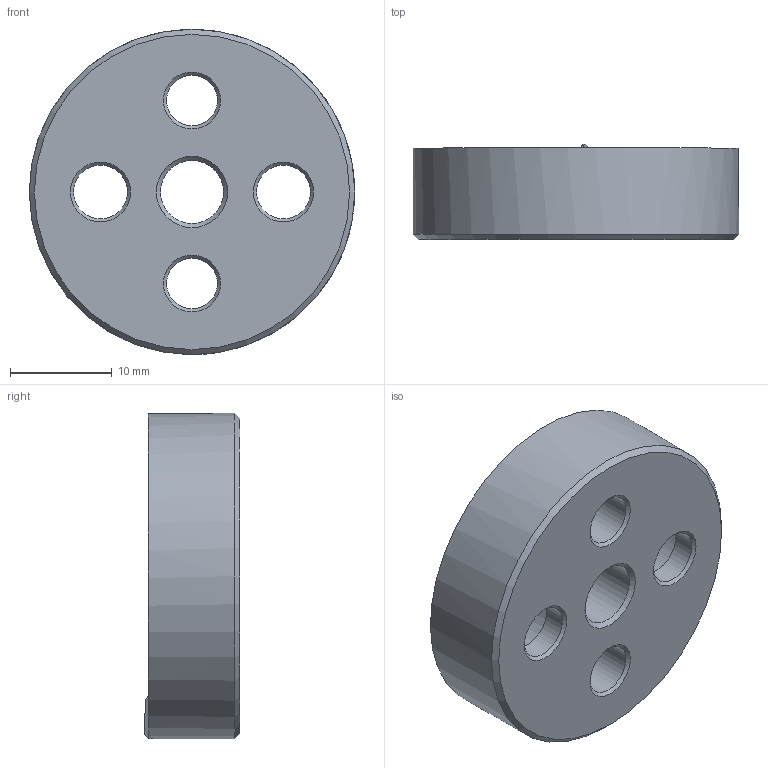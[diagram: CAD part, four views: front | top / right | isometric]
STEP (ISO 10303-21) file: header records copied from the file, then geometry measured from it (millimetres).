
FILE_DESCRIPTION( ( 'STEP AP203' ), '1' );
FILE_NAME( 'C:/Temp/Ganter_Step_05_03_2020/data/3_2/gn187_4/gn187_4_st/Serrated locking plate GN 187.4-32-60-B-ST.stp', '2020-03-13T05:25:39', ( 'License CC BY-ND 4.0' ), ( 'CADENAS' ), ' ', 'PARTsolutions', ' ' );
FILE_SCHEMA( ( 'CONFIG_CONTROL_DESIGN' ) );
Length unit declared in the file: millimetre
Products named in the file (1): _Serrated locking plate GN 187.4-32-60-B-ST
Bounding box: 32 x 9.43 x 32 mm (x, y, z)
Volume: 5329.6 mm3; surface area: 3131.9 mm2
Topology: 1 solids, 1 shells, 36 faces, 94 edges, 60 vertices
Faces by surface type: cone 15, cylinder 12, plane 9
Full cylindrical faces by diameter (mm): 5 x2, 5.3 x2, 6.2 x1, 9.4 x2, 32 x1
Entity records: 1152 total; most frequent: CARTESIAN_POINT 286, DIRECTION 178, ORIENTED_EDGE 146, AXIS2_PLACEMENT_3D 84, EDGE_CURVE 73, EDGE_LOOP 63, VERTEX_POINT 56, FACE_OUTER_BOUND 44
